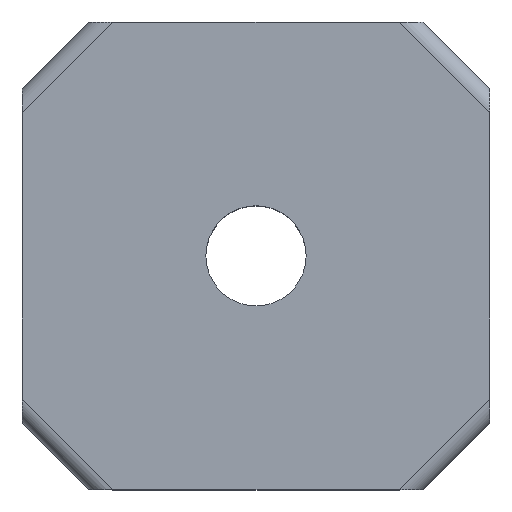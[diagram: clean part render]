
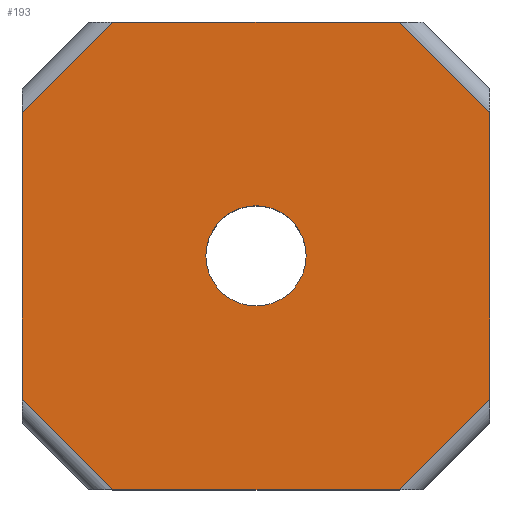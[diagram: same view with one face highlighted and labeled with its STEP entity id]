
A CAD part, top view. The second image highlights one B-rep face of the part: STEP entity #193.
In plain terms, the highlighted planar face has unit normal (0, 0, 1).
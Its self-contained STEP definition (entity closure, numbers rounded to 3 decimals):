
#2 = LINE ( 'NONE', #722, #428 ) ;
#17 = CARTESIAN_POINT ( 'NONE',  ( 3.372, -4.036, 6. ) ) ;
#26 = EDGE_CURVE ( 'NONE', #531, #137, #396, .T. ) ;
#31 = LINE ( 'NONE', #156, #312 ) ;
#60 = VERTEX_POINT ( 'NONE', #688 ) ;
#61 = DIRECTION ( 'NONE',  ( -0.707, -0.707, 0. ) ) ;
#77 = DIRECTION ( 'NONE',  ( 1., 0., 0. ) ) ;
#80 = CARTESIAN_POINT ( 'NONE',  ( -3.628, -11.036, 6. ) ) ;
#95 = EDGE_CURVE ( 'NONE', #531, #677, #674, .T. ) ;
#113 = CARTESIAN_POINT ( 'NONE',  ( 8.019, 2.61, 6. ) ) ;
#120 = VECTOR ( 'NONE', #266, 1000. ) ;
#134 = VERTEX_POINT ( 'NONE', #618 ) ;
#135 = CARTESIAN_POINT ( 'NONE',  ( 10.372, -8.329, 6. ) ) ;
#137 = VERTEX_POINT ( 'NONE', #280 ) ;
#138 = LINE ( 'NONE', #597, #120 ) ;
#140 = AXIS2_PLACEMENT_3D ( 'NONE', #17, #411, #77 ) ;
#151 = DIRECTION ( 'NONE',  ( 1., 0., 0. ) ) ;
#153 = CARTESIAN_POINT ( 'NONE',  ( -1.274, -10.683, 6. ) ) ;
#154 = CIRCLE ( 'NONE', #140, 1.5 ) ;
#156 = CARTESIAN_POINT ( 'NONE',  ( 10.019, -8.683, 6. ) ) ;
#175 = ORIENTED_EDGE ( 'NONE', *, *, #691, .F. ) ;
#183 = CARTESIAN_POINT ( 'NONE',  ( 1.872, -4.036, 6. ) ) ;
#189 = VECTOR ( 'NONE', #61, 1000. ) ;
#193 = ADVANCED_FACE ( 'NONE', ( #356, #492 ), #537, .F. ) ;
#214 = AXIS2_PLACEMENT_3D ( 'NONE', #419, #504, #151 ) ;
#219 = EDGE_CURVE ( 'NONE', #451, #643, #610, .T. ) ;
#245 = EDGE_LOOP ( 'NONE', ( #664, #175 ) ) ;
#247 = CARTESIAN_POINT ( 'NONE',  ( -3.628, -8.329, 6. ) ) ;
#249 = VECTOR ( 'NONE', #487, 1000. ) ;
#251 = CARTESIAN_POINT ( 'NONE',  ( 10.372, 2.964, 6. ) ) ;
#266 = DIRECTION ( 'NONE',  ( 0., -1., 0. ) ) ;
#272 = LINE ( 'NONE', #153, #249 ) ;
#279 = VERTEX_POINT ( 'NONE', #183 ) ;
#280 = CARTESIAN_POINT ( 'NONE',  ( 7.665, 2.964, 6. ) ) ;
#282 = VERTEX_POINT ( 'NONE', #285 ) ;
#285 = CARTESIAN_POINT ( 'NONE',  ( 7.665, -11.036, 6. ) ) ;
#288 = ORIENTED_EDGE ( 'NONE', *, *, #219, .T. ) ;
#291 = VECTOR ( 'NONE', #471, 1000. ) ;
#302 = CARTESIAN_POINT ( 'NONE',  ( 0., 0., 6. ) ) ;
#312 = VECTOR ( 'NONE', #601, 1000. ) ;
#346 = DIRECTION ( 'NONE',  ( 0., 0., -1. ) ) ;
#349 = ORIENTED_EDGE ( 'NONE', *, *, #26, .T. ) ;
#356 = FACE_BOUND ( 'NONE', #245, .T. ) ;
#380 = VECTOR ( 'NONE', #574, 1000. ) ;
#383 = ORIENTED_EDGE ( 'NONE', *, *, #477, .T. ) ;
#385 = ORIENTED_EDGE ( 'NONE', *, *, #706, .T. ) ;
#396 = LINE ( 'NONE', #113, #380 ) ;
#399 = CARTESIAN_POINT ( 'NONE',  ( -3.274, 0.61, 6. ) ) ;
#404 = EDGE_CURVE ( 'NONE', #282, #677, #31, .T. ) ;
#411 = DIRECTION ( 'NONE',  ( 0., 0., 1. ) ) ;
#419 = CARTESIAN_POINT ( 'NONE',  ( 3.372, -4.036, 6. ) ) ;
#428 = VECTOR ( 'NONE', #526, 1000. ) ;
#441 = CARTESIAN_POINT ( 'NONE',  ( -0.921, 2.964, 6. ) ) ;
#446 = CIRCLE ( 'NONE', #214, 1.5 ) ;
#451 = VERTEX_POINT ( 'NONE', #441 ) ;
#467 = EDGE_CURVE ( 'NONE', #451, #137, #2, .T. ) ;
#471 = DIRECTION ( 'NONE',  ( 1., 0., 0. ) ) ;
#477 = EDGE_CURVE ( 'NONE', #134, #282, #707, .T. ) ;
#487 = DIRECTION ( 'NONE',  ( 0.707, -0.707, 0. ) ) ;
#489 = VERTEX_POINT ( 'NONE', #247 ) ;
#492 = FACE_OUTER_BOUND ( 'NONE', #506, .T. ) ;
#504 = DIRECTION ( 'NONE',  ( 0., 0., 1. ) ) ;
#505 = ORIENTED_EDGE ( 'NONE', *, *, #467, .F. ) ;
#506 = EDGE_LOOP ( 'NONE', ( #505, #288, #385, #639, #383, #514, #604, #349 ) ) ;
#514 = ORIENTED_EDGE ( 'NONE', *, *, #404, .T. ) ;
#522 = VECTOR ( 'NONE', #584, 1000. ) ;
#523 = CARTESIAN_POINT ( 'NONE',  ( -3.628, 0.256, 6. ) ) ;
#526 = DIRECTION ( 'NONE',  ( 1., 0., 0. ) ) ;
#531 = VERTEX_POINT ( 'NONE', #583 ) ;
#537 = PLANE ( 'NONE',  #650 ) ;
#569 = DIRECTION ( 'NONE',  ( -1., 0., 0. ) ) ;
#574 = DIRECTION ( 'NONE',  ( -0.707, 0.707, 0. ) ) ;
#583 = CARTESIAN_POINT ( 'NONE',  ( 10.372, 0.256, 6. ) ) ;
#584 = DIRECTION ( 'NONE',  ( 0., -1., 0. ) ) ;
#597 = CARTESIAN_POINT ( 'NONE',  ( -3.628, 2.964, 6. ) ) ;
#601 = DIRECTION ( 'NONE',  ( 0.707, 0.707, 0. ) ) ;
#604 = ORIENTED_EDGE ( 'NONE', *, *, #95, .F. ) ;
#610 = LINE ( 'NONE', #399, #189 ) ;
#618 = CARTESIAN_POINT ( 'NONE',  ( -0.921, -11.036, 6. ) ) ;
#639 = ORIENTED_EDGE ( 'NONE', *, *, #718, .T. ) ;
#643 = VERTEX_POINT ( 'NONE', #523 ) ;
#650 = AXIS2_PLACEMENT_3D ( 'NONE', #302, #346, #569 ) ;
#664 = ORIENTED_EDGE ( 'NONE', *, *, #672, .F. ) ;
#672 = EDGE_CURVE ( 'NONE', #60, #279, #154, .T. ) ;
#674 = LINE ( 'NONE', #251, #522 ) ;
#677 = VERTEX_POINT ( 'NONE', #135 ) ;
#688 = CARTESIAN_POINT ( 'NONE',  ( 4.872, -4.036, 6. ) ) ;
#691 = EDGE_CURVE ( 'NONE', #279, #60, #446, .T. ) ;
#706 = EDGE_CURVE ( 'NONE', #643, #489, #138, .T. ) ;
#707 = LINE ( 'NONE', #80, #291 ) ;
#718 = EDGE_CURVE ( 'NONE', #489, #134, #272, .T. ) ;
#722 = CARTESIAN_POINT ( 'NONE',  ( -3.628, 2.964, 6. ) ) ;
